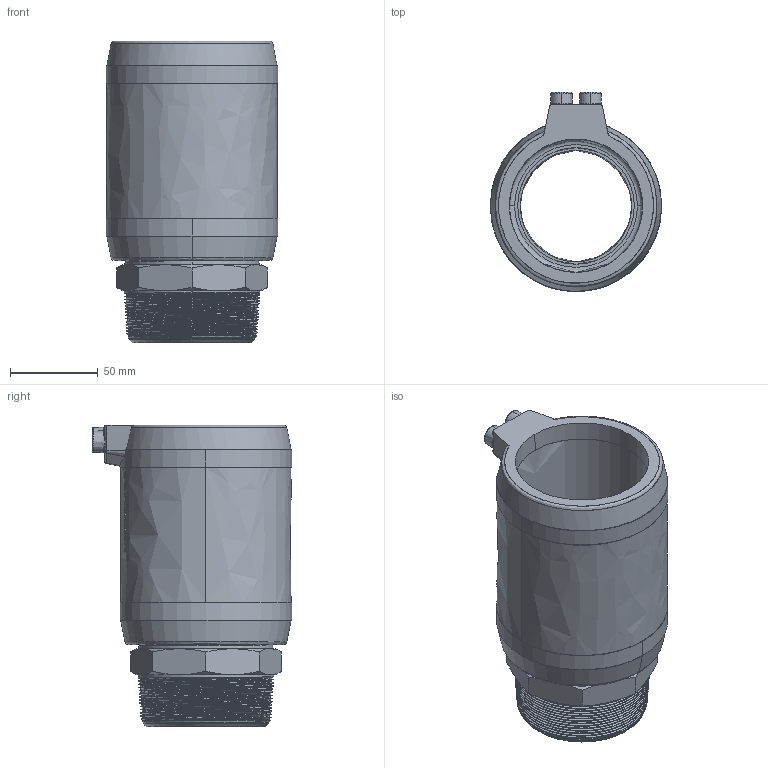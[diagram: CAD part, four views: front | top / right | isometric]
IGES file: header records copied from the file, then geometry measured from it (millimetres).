
Start section:  PTC IGES file: mun_d75_2_1-2_01.igs
Global section: file name: mun_d75_2_1-2_01.igs; native system: Pro/ENGINEER by Parametric Technology Corporation; preprocessor: 2011490; author: mtunjic; organization: Unknown; date: 20130823.145513; units: millimetre
Bounding box: 97.6 x 113.45 x 171.9 mm (x, y, z)
Surface area: 102979.9 mm2 (no closed solid volume)
Topology: 0 solids, 0 shells, 283 faces, 1434 edges, 1434 vertices
Faces by surface type: bspline 283
